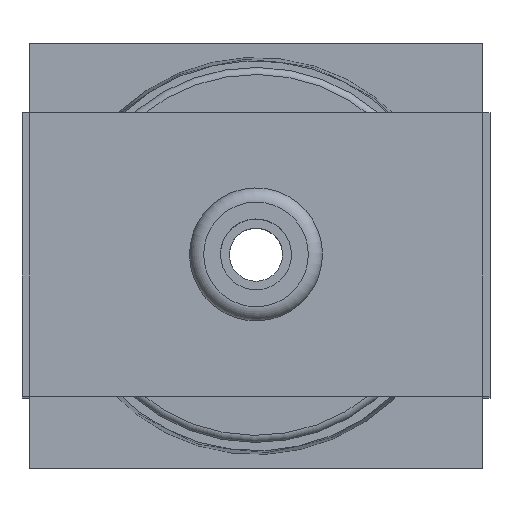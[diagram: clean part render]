
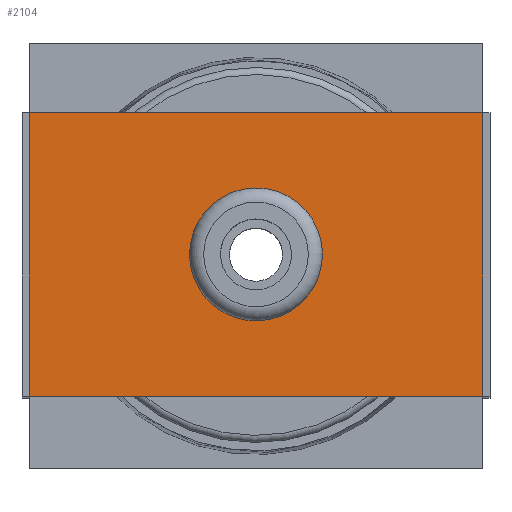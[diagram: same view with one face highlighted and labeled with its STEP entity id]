
A CAD part, top view. The second image highlights one B-rep face of the part: STEP entity #2104.
In plain terms, the highlighted planar face has unit normal (0, 0, 1).
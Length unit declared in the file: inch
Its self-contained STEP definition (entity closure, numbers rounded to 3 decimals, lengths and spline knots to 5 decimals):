
#52=FACE_BOUND('',#413,.T.);
#53=FACE_BOUND('',#414,.T.);
#199=PLANE('',#2254);
#413=EDGE_LOOP('',(#1573));
#414=EDGE_LOOP('',(#1574,#1575,#1576,#1577));
#619=LINE('',#13693,#745);
#621=LINE('',#13697,#747);
#622=LINE('',#13699,#748);
#623=LINE('',#13700,#749);
#745=VECTOR('',#2541,8.);
#747=VECTOR('',#2545,5.);
#748=VECTOR('',#2546,8.);
#749=VECTOR('',#2547,5.);
#823=CIRCLE('',#2243,0.9375);
#963=VERTEX_POINT('',#13654);
#976=VERTEX_POINT('',#13690);
#977=VERTEX_POINT('',#13692);
#978=VERTEX_POINT('',#13696);
#979=VERTEX_POINT('',#13698);
#1189=EDGE_CURVE('',#963,#963,#823,.T.);
#1207=EDGE_CURVE('',#977,#976,#619,.T.);
#1209=EDGE_CURVE('',#976,#978,#621,.T.);
#1210=EDGE_CURVE('',#979,#978,#622,.T.);
#1211=EDGE_CURVE('',#977,#979,#623,.T.);
#1573=ORIENTED_EDGE('',*,*,#1189,.T.);
#1574=ORIENTED_EDGE('',*,*,#1209,.T.);
#1575=ORIENTED_EDGE('',*,*,#1210,.F.);
#1576=ORIENTED_EDGE('',*,*,#1211,.F.);
#1577=ORIENTED_EDGE('',*,*,#1207,.T.);
#2104=ADVANCED_FACE('',(#52,#53),#199,.T.);
#2243=AXIS2_PLACEMENT_3D('',#13655,#2506,#2507);
#2254=AXIS2_PLACEMENT_3D('',#13695,#2543,#2544);
#2506=DIRECTION('center_axis',(0.,0.,-1.));
#2507=DIRECTION('ref_axis',(-1.,0.,0.));
#2541=DIRECTION('',(-1.,0.,0.));
#2543=DIRECTION('center_axis',(0.,0.,1.));
#2544=DIRECTION('ref_axis',(-1.,0.,0.));
#2545=DIRECTION('',(0.,-1.,0.));
#2546=DIRECTION('',(-1.,0.,0.));
#2547=DIRECTION('',(0.,-1.,0.));
#13654=CARTESIAN_POINT('',(-0.9375,0.,0.));
#13655=CARTESIAN_POINT('Origin',(0.,0.,
0.));
#13690=CARTESIAN_POINT('',(-4.,2.5,0.));
#13692=CARTESIAN_POINT('',(4.,2.5,0.));
#13693=CARTESIAN_POINT('',(4.,2.5,0.));
#13695=CARTESIAN_POINT('Origin',(4.,2.5,0.));
#13696=CARTESIAN_POINT('',(-4.,-2.5,0.));
#13697=CARTESIAN_POINT('',(-4.,1.25,0.));
#13698=CARTESIAN_POINT('',(4.,-2.5,0.));
#13699=CARTESIAN_POINT('',(4.,-2.5,0.));
#13700=CARTESIAN_POINT('',(4.,1.25,0.));
